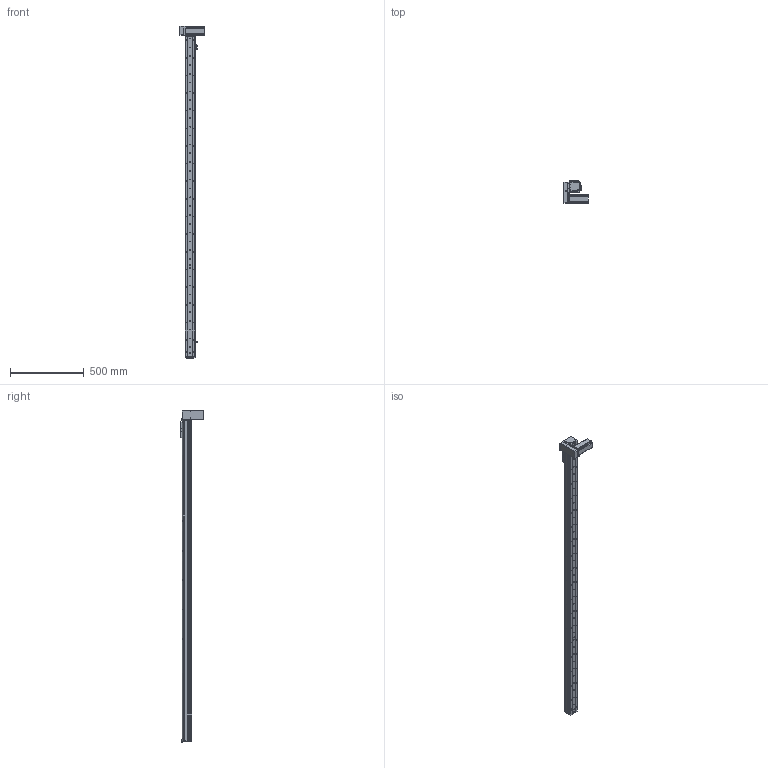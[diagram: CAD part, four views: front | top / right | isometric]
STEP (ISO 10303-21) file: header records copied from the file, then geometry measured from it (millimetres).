
FILE_DESCRIPTION (( 'STEP AP214' ), '1' );
FILE_NAME ('KSD68BS-S2000-MRD-CR.STEP', '2019-08-28T02:59:01', ( '微软用户' ), ( '微软中国' ), 'SwSTEP 2.0', 'SolidWorks 2014', '' );
FILE_SCHEMA (( 'AUTOMOTIVE_DESIGN' ));
Length unit declared in the file: millimetre
Products named in the file (14): 68单导轨全封闭同步带安装板; 悵誘欶奻狟殏; 68宽马达安装板连板上折同步带; 感应片68宽全封闭; U倰嫖萇EEㄜSX672; 台达ECMA－C20604AS伺服电机（400W); KSD68BS 2000行程底板全封闭; KSD68BS-S2000-MRD-CR; KSD68BS 2000行程盖板全封闭; 68遵裔啣揤啣1; 68宽单导轨全封闭丝杆传动安装板1防护罩; KSD68BS 2000行程侧板全封闭; 68宽单导轨全封闭同步带端板; 68单导轨全封闭同步带电机座右
Assembly tree (17 placements, depth 2):
  KSD68BS-S2000-MRD-CR
    KSD68BS 2000行程底板全封闭
    台达ECMA－C20604AS伺服电机（400W)
    U倰嫖萇EEㄜSX672  x3
    感应片68宽全封闭
    68宽马达安装板连板上折同步带
    悵誘欶奻狟殏
    68单导轨全封闭同步带安装板
    68单导轨全封闭同步带电机座右
    68宽单导轨全封闭同步带端板
    KSD68BS 2000行程侧板全封闭  x2
    68宽单导轨全封闭丝杆传动安装板1防护罩
    68遵裔啣揤啣1  x2
    KSD68BS 2000行程盖板全封闭
Bounding box: 167.2 x 155.5 x 2258.1 mm (x, y, z)
Volume: 3884701.1 mm3; surface area: 1607432.2 mm2
Topology: 18 solids, 18 shells, 1668 faces, 4841 edges, 3077 vertices
Faces by surface type: cylinder 833, plane 631, cone 204
Entity records: 55290 total; most frequent: CARTESIAN_POINT 9659, DIRECTION 8209, ORIENTED_EDGE 7854, EDGE_CURVE 3927, AXIS2_PLACEMENT_3D 3009, VERTEX_POINT 2575, LINE 2191, VECTOR 2191
